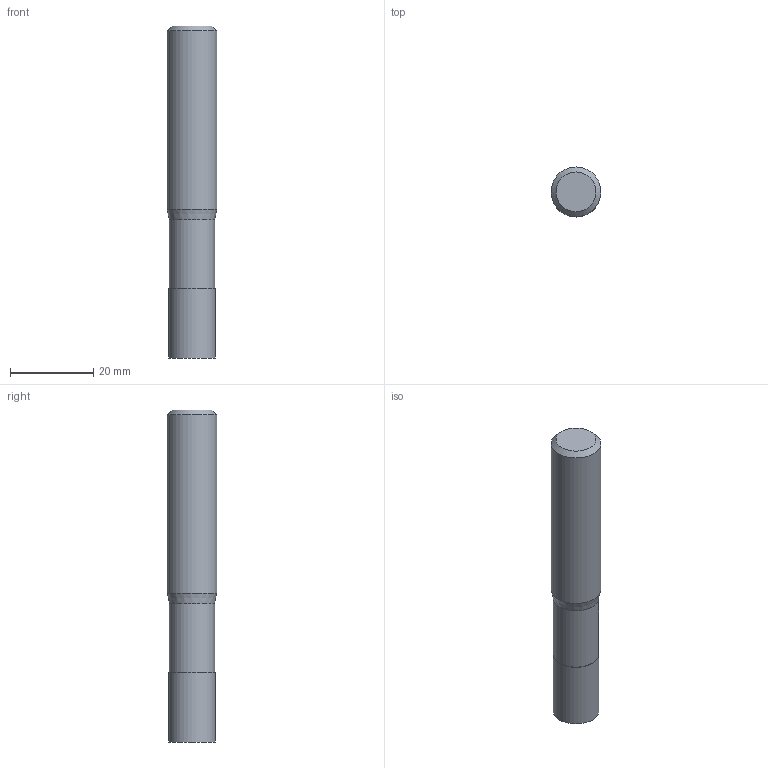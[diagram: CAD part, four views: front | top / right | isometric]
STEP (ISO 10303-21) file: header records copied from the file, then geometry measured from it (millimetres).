
FILE_DESCRIPTION((''),'2;1');
FILE_NAME('C:\Users\nsx150\AppData\Local\Temp\Mastercam 2021\EUJSUNXURU\TEMP.step','2021-04-22T10:30:14',(''),(''),'STEP Write','Mastercam 2021 ... CNC Software, Inc.','');
FILE_SCHEMA(('AUTOMOTIVE_DESIGN'));
Length unit declared in the file: millimetre
Products named in the file (1): None
Bounding box: 12 x 12 x 80 mm (x, y, z)
Volume: 8395.3 mm3; surface area: 3280.5 mm2
Topology: 2 solids, 2 shells, 9 faces, 12 edges, 7 vertices
Faces by surface type: plane 4, cylinder 3, cone 2
Full cylindrical faces by diameter (mm): 10.9 x1, 11.1 x1, 12 x1
Entity records: 211 total; most frequent: DIRECTION 36, CARTESIAN_POINT 25, AXIS2_PLACEMENT_3D 18, ORIENTED_EDGE 14, EDGE_LOOP 14, STYLED_ITEM 12, ADVANCED_FACE 9, FACE_BOUND 8
